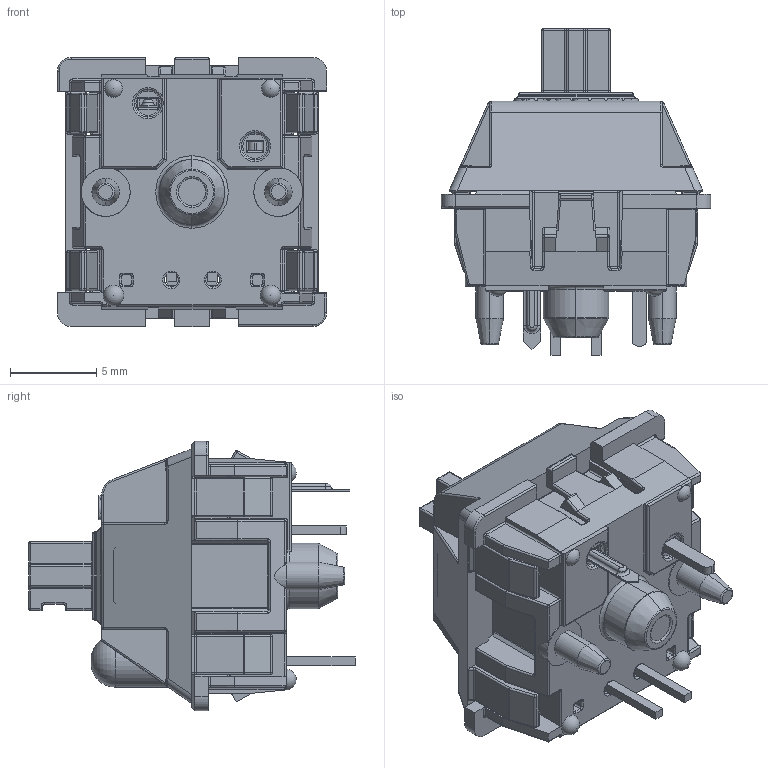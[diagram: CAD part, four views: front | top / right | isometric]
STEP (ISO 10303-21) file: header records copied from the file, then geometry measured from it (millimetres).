
FILE_DESCRIPTION (( 'STEP AP214' ), '1' );
FILE_NAME ('MX Series-Cherry Key.STEP', '2018-11-05T09:36:02', ( '' ), ( '' ), 'SwSTEP 2.0', 'SolidWorks 2018', '' );
FILE_SCHEMA (( 'AUTOMOTIVE_DESIGN' ));
Length unit declared in the file: millimetre
Products named in the file (1): MX Series-Cherry Key
Bounding box: 15.6 x 18.9 x 15.6 mm (x, y, z)
Volume: 1126.4 mm3; surface area: 2742.9 mm2
Topology: 10 solids, 10 shells, 1666 faces, 4025 edges, 2286 vertices
Faces by surface type: cylinder 681, plane 526, torus 247, sphere 113, bspline 59, cone 40
Entity records: 66591 total; most frequent: CARTESIAN_POINT 10231, DIRECTION 8300, ORIENTED_EDGE 7818, EDGE_CURVE 3909, AXIS2_PLACEMENT_3D 3107, VERTEX_POINT 2279, VECTOR 2086, LINE 2086
